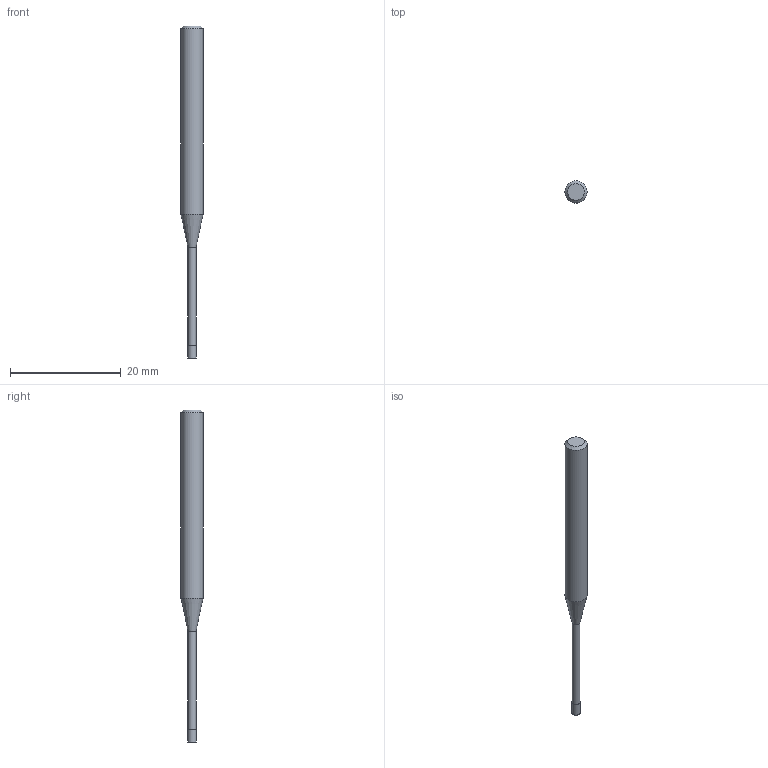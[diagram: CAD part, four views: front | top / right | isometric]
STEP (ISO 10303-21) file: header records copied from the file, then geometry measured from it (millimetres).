
FILE_DESCRIPTION((''),'2;1');
FILE_NAME('C:\Users\nsx150\AppData\Local\Temp\Mastercam 2021\17T8Q8S9EB\TEMP.step','2021-04-21T14:26:48',(''),(''),'STEP Write','Mastercam 2021 ... CNC Software, Inc.','');
FILE_SCHEMA(('AUTOMOTIVE_DESIGN'));
Length unit declared in the file: millimetre
Products named in the file (1): None
Bounding box: 4 x 4 x 60 mm (x, y, z)
Volume: 496.7 mm3; surface area: 585 mm2
Topology: 2 solids, 2 shells, 9 faces, 12 edges, 7 vertices
Faces by surface type: plane 4, cylinder 3, cone 2
Full cylindrical faces by diameter (mm): 1.45 x1, 1.5 x1, 4 x1
Entity records: 211 total; most frequent: DIRECTION 36, CARTESIAN_POINT 25, AXIS2_PLACEMENT_3D 18, ORIENTED_EDGE 14, EDGE_LOOP 14, STYLED_ITEM 12, ADVANCED_FACE 9, FACE_BOUND 8
